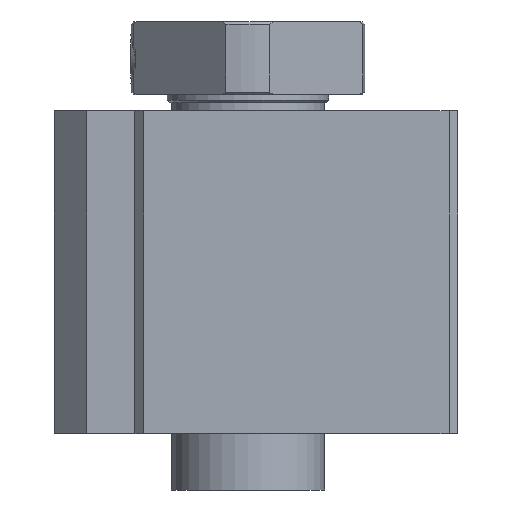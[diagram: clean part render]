
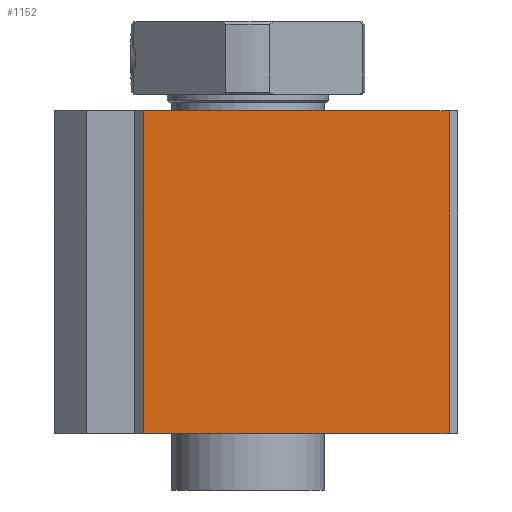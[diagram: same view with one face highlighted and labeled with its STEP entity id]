
A CAD part, left-side view. The second image highlights one B-rep face of the part: STEP entity #1152.
In plain terms, the highlighted planar face has unit normal (-1, 0, 0).
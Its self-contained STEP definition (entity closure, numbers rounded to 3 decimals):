
#73=LINE('',#1749,#151);
#87=LINE('',#1785,#165);
#101=LINE('',#1821,#179);
#102=LINE('',#1822,#180);
#151=VECTOR('',#1404,1000.);
#165=VECTOR('',#1428,1000.);
#179=VECTOR('',#1452,1000.);
#180=VECTOR('',#1453,1000.);
#233=PLANE('',#1273);
#307=ORIENTED_EDGE('',*,*,#592,.F.);
#308=ORIENTED_EDGE('',*,*,#609,.F.);
#309=ORIENTED_EDGE('',*,*,#575,.T.);
#310=ORIENTED_EDGE('',*,*,#610,.T.);
#575=EDGE_CURVE('',#726,#727,#73,.T.);
#592=EDGE_CURVE('',#743,#744,#87,.T.);
#609=EDGE_CURVE('',#726,#743,#101,.T.);
#610=EDGE_CURVE('',#727,#744,#102,.T.);
#726=VERTEX_POINT('',#1750);
#727=VERTEX_POINT('',#1751);
#743=VERTEX_POINT('',#1786);
#744=VERTEX_POINT('',#1787);
#899=EDGE_LOOP('',(#307,#308,#309,#310));
#1017=FACE_BOUND('',#899,.T.);
#1152=ADVANCED_FACE('',(#1017),#233,.T.);
#1273=AXIS2_PLACEMENT_3D('',#1820,#1450,#1451);
#1404=DIRECTION('',(0.,-1.,0.));
#1428=DIRECTION('',(0.,-1.,0.));
#1450=DIRECTION('',(-1.,0.,0.));
#1451=DIRECTION('',(0.,0.,1.));
#1452=DIRECTION('',(0.,0.,1.));
#1453=DIRECTION('',(0.,0.,1.));
#1749=CARTESIAN_POINT('',(-21.,6.46,-20.));
#1750=CARTESIAN_POINT('',(-21.,6.46,-20.));
#1751=CARTESIAN_POINT('',(-21.,-12.46,-20.));
#1785=CARTESIAN_POINT('',(-21.,6.46,0.));
#1786=CARTESIAN_POINT('',(-21.,6.46,0.));
#1787=CARTESIAN_POINT('',(-21.,-12.46,0.));
#1820=CARTESIAN_POINT('',(-21.,6.46,-20.));
#1821=CARTESIAN_POINT('',(-21.,6.46,-20.));
#1822=CARTESIAN_POINT('',(-21.,-12.46,-20.));
